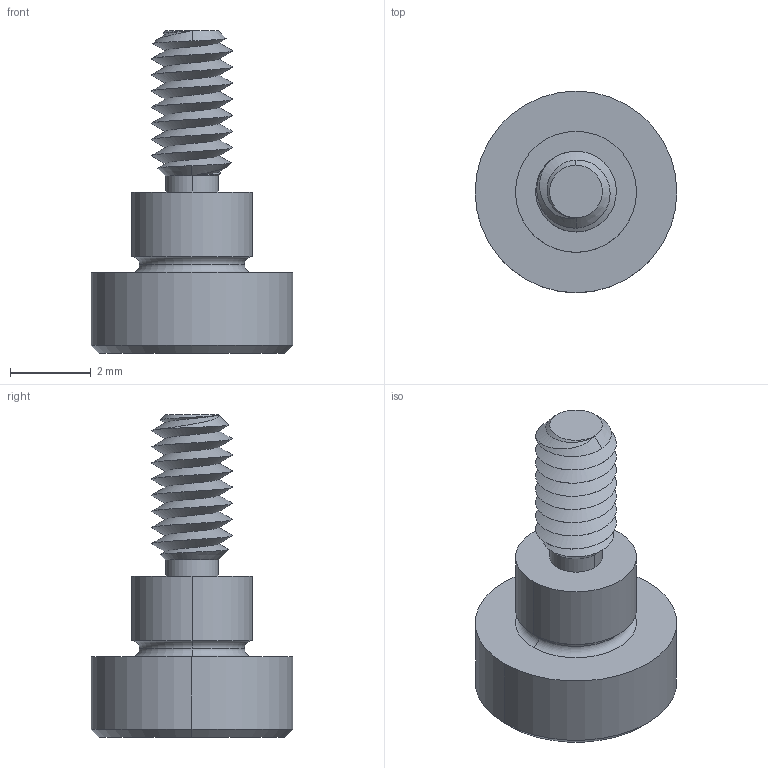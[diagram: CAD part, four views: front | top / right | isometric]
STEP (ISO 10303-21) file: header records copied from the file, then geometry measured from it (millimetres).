
FILE_DESCRIPTION (( 'STEP AP203' ), '1' );
FILE_NAME ('P0130.030-002-B2.step', '2021-11-09T20:52:11', ( '' ), ( '' ), 'SwSTEP 2.0', 'SolidWorks 2019', '' );
FILE_SCHEMA (( 'CONFIG_CONTROL_DESIGN' ));
Length unit declared in the file: millimetre
Products named in the file (1): P0130.030-002-B2
Bounding box: 5 x 5 x 8 mm (x, y, z)
Volume: 57.5 mm3; surface area: 135 mm2
Topology: 1 solids, 1 shells, 58 faces, 136 edges, 81 vertices
Faces by surface type: cylinder 22, plane 16, cone 14, torus 4, bspline 2
Entity records: 2452 total; most frequent: CARTESIAN_POINT 1166, ORIENTED_EDGE 268, DIRECTION 241, EDGE_CURVE 134, AXIS2_PLACEMENT_3D 97, VERTEX_POINT 81, EDGE_LOOP 61, ADVANCED_FACE 58
